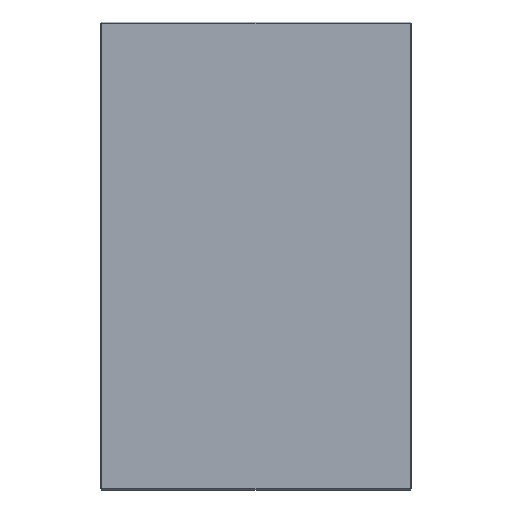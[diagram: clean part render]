
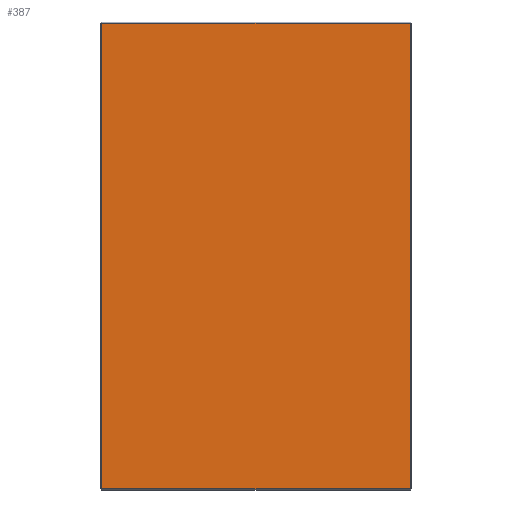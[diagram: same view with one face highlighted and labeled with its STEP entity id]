
A CAD part, front view. The second image highlights one B-rep face of the part: STEP entity #387.
In plain terms, the highlighted planar face has unit normal (0, -1, 0).
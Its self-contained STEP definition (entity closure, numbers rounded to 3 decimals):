
#15 = VECTOR ( 'NONE', #101, 1000. ) ;
#21 = LINE ( 'NONE', #67, #15 ) ;
#26 = EDGE_CURVE ( 'NONE', #264, #108, #345, .T. ) ;
#50 = DIRECTION ( 'NONE',  ( 0., 0., 1. ) ) ;
#55 = ORIENTED_EDGE ( 'NONE', *, *, #26, .T. ) ;
#67 = CARTESIAN_POINT ( 'NONE',  ( 0., 0., 222. ) ) ;
#82 = CARTESIAN_POINT ( 'NONE',  ( 0., 0., -222. ) ) ;
#98 = DIRECTION ( 'NONE',  ( 0., 1., 0. ) ) ;
#101 = DIRECTION ( 'NONE',  ( -1., 0., 0. ) ) ;
#108 = VERTEX_POINT ( 'NONE', #123 ) ;
#123 = CARTESIAN_POINT ( 'NONE',  ( -147., 0., -222. ) ) ;
#126 = AXIS2_PLACEMENT_3D ( 'NONE', #137, #98, #131 ) ;
#131 = DIRECTION ( 'NONE',  ( 0., 0., 1. ) ) ;
#133 = EDGE_CURVE ( 'NONE', #353, #264, #21, .T. ) ;
#137 = CARTESIAN_POINT ( 'NONE',  ( 0., 0., 0. ) ) ;
#141 = ORIENTED_EDGE ( 'NONE', *, *, #133, .T. ) ;
#156 = PLANE ( 'NONE',  #126 ) ;
#227 = VERTEX_POINT ( 'NONE', #504 ) ;
#264 = VERTEX_POINT ( 'NONE', #439 ) ;
#271 = ORIENTED_EDGE ( 'NONE', *, *, #540, .T. ) ;
#280 = EDGE_LOOP ( 'NONE', ( #588, #141, #55, #271 ) ) ;
#284 = CARTESIAN_POINT ( 'NONE',  ( 147., 0., 0. ) ) ;
#345 = LINE ( 'NONE', #403, #378 ) ;
#353 = VERTEX_POINT ( 'NONE', #354 ) ;
#354 = CARTESIAN_POINT ( 'NONE',  ( 147., 0., 222. ) ) ;
#378 = VECTOR ( 'NONE', #397, 1000. ) ;
#380 = DIRECTION ( 'NONE',  ( 1., 0., 0. ) ) ;
#387 = ADVANCED_FACE ( 'NONE', ( #406 ), #156, .F. ) ;
#397 = DIRECTION ( 'NONE',  ( 0., 0., -1. ) ) ;
#403 = CARTESIAN_POINT ( 'NONE',  ( -147., 0., 0. ) ) ;
#406 = FACE_OUTER_BOUND ( 'NONE', #280, .T. ) ;
#439 = CARTESIAN_POINT ( 'NONE',  ( -147., 0., 222. ) ) ;
#504 = CARTESIAN_POINT ( 'NONE',  ( 147., 0., -222. ) ) ;
#540 = EDGE_CURVE ( 'NONE', #108, #227, #631, .T. ) ;
#552 = VECTOR ( 'NONE', #380, 1000. ) ;
#586 = VECTOR ( 'NONE', #50, 1000. ) ;
#588 = ORIENTED_EDGE ( 'NONE', *, *, #622, .T. ) ;
#592 = LINE ( 'NONE', #284, #586 ) ;
#622 = EDGE_CURVE ( 'NONE', #227, #353, #592, .T. ) ;
#631 = LINE ( 'NONE', #82, #552 ) ;
